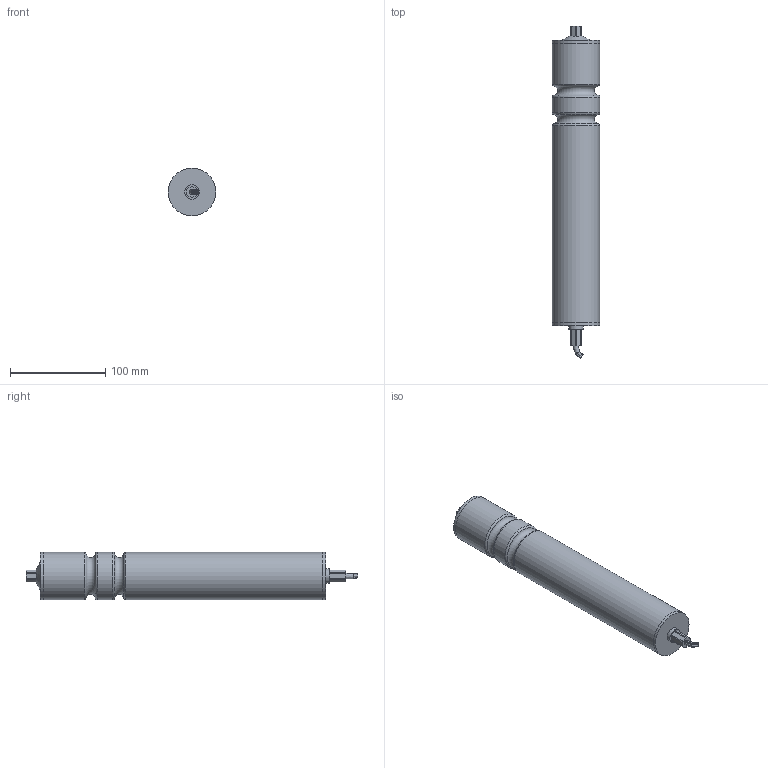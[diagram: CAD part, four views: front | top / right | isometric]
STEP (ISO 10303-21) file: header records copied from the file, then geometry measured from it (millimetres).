
FILE_DESCRIPTION(/* description */ (''),/* implementation_level */ '2;1');
FILE_NAME(/* name */ 'BLDG50-300(O型槽).stp',/* time_stamp */ '2021-11-10T09:02:06+08:00',/* author */ (''),/* organization */ (''),/* preprocessor_version */ 'ST-DEVELOPER v16.7',/* originating_system */ 'SIEMENS PLM Software NX 1899',/* authorisation */ '');
FILE_SCHEMA (('AP203_CONFIGURATION_CONTROLLED_3D_DESIGN_OF_MECHANICAL_PARTS_AND_ASSEMBLIES_MIM_LF { 1 0 10303 403 2 1 2}'));
Length unit declared in the file: millimetre
Products named in the file (1): BLDG50-300(O型槽)
Bounding box: 50 x 349.1 x 50 mm (x, y, z)
Volume: 592794.5 mm3; surface area: 64724.6 mm2
Topology: 15 solids, 15 shells, 77 faces, 130 edges, 84 vertices
Faces by surface type: plane 43, cylinder 18, bspline 9, torus 6, cone 1
Full cylindrical faces by diameter (mm): 15 x1, 50 x5
Entity records: 3312 total; most frequent: CARTESIAN_POINT 1792, DIRECTION 288, ORIENTED_EDGE 216, AXIS2_PLACEMENT_3D 120, EDGE_CURVE 108, EDGE_LOOP 100, VERTEX_POINT 84, ADVANCED_FACE 77
